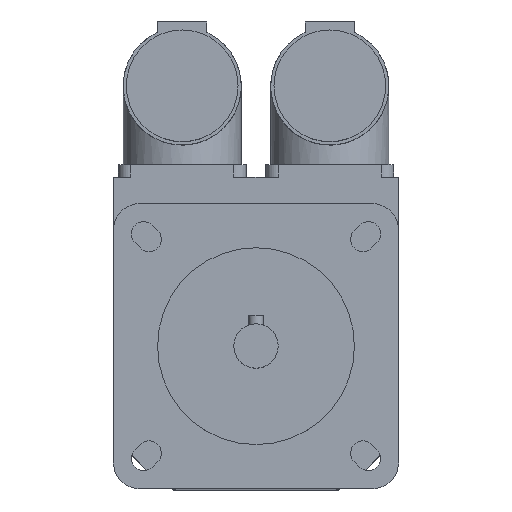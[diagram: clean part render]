
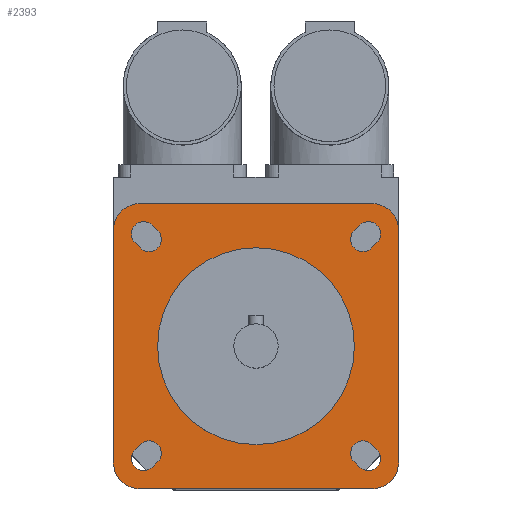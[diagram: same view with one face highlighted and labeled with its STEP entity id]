
A CAD part, top view. The second image highlights one B-rep face of the part: STEP entity #2393.
In plain terms, the highlighted planar face has unit normal (0, 0, 1).
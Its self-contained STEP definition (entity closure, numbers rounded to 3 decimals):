
#32=FACE_BOUND('',#432,.T.);
#33=FACE_BOUND('',#433,.T.);
#34=FACE_BOUND('',#434,.T.);
#35=FACE_BOUND('',#435,.T.);
#36=FACE_BOUND('',#436,.T.);
#51=CIRCLE('',#2486,20.);
#88=CIRCLE('',#2550,2.5);
#92=CIRCLE('',#2557,2.5);
#93=CIRCLE('',#2560,2.5);
#94=CIRCLE('',#2563,2.5);
#104=CIRCLE('',#2578,2.5);
#105=CIRCLE('',#2581,2.5);
#106=CIRCLE('',#2584,2.5);
#107=CIRCLE('',#2587,2.5);
#108=CIRCLE('',#2589,5.5);
#109=CIRCLE('',#2591,5.5);
#110=CIRCLE('',#2593,5.5);
#111=CIRCLE('',#2595,5.5);
#290=FACE_OUTER_BOUND('',#431,.T.);
#431=EDGE_LOOP('',(#1839,#1840,#1841,#1842,#1843,#1844,#1845,#1846));
#432=EDGE_LOOP('',(#1847));
#433=EDGE_LOOP('',(#1848,#1849,#1850,#1851));
#434=EDGE_LOOP('',(#1852,#1853,#1854,#1855));
#435=EDGE_LOOP('',(#1856,#1857,#1858,#1859));
#436=EDGE_LOOP('',(#1860,#1861,#1862,#1863));
#578=LINE('',#3719,#799);
#586=LINE('',#3743,#807);
#590=LINE('',#3753,#811);
#594=LINE('',#3763,#815);
#610=LINE('',#3814,#831);
#612=LINE('',#3820,#833);
#614=LINE('',#3826,#835);
#616=LINE('',#3832,#837);
#625=LINE('',#3860,#846);
#626=LINE('',#3861,#847);
#627=LINE('',#3862,#848);
#628=LINE('',#3863,#849);
#799=VECTOR('',#2944,1.5);
#807=VECTOR('',#2966,1.5);
#811=VECTOR('',#2976,1.5);
#815=VECTOR('',#2986,1.5);
#831=VECTOR('',#3032,1.5);
#833=VECTOR('',#3040,1.5);
#835=VECTOR('',#3048,1.5);
#837=VECTOR('',#3056,1.5);
#846=VECTOR('',#3087,47.);
#847=VECTOR('',#3088,47.);
#848=VECTOR('',#3089,47.);
#849=VECTOR('',#3090,47.);
#974=VERTEX_POINT('',#3540);
#1039=VERTEX_POINT('',#3716);
#1040=VERTEX_POINT('',#3718);
#1041=VERTEX_POINT('',#3722);
#1048=VERTEX_POINT('',#3740);
#1049=VERTEX_POINT('',#3742);
#1050=VERTEX_POINT('',#3746);
#1051=VERTEX_POINT('',#3750);
#1052=VERTEX_POINT('',#3752);
#1053=VERTEX_POINT('',#3756);
#1054=VERTEX_POINT('',#3760);
#1055=VERTEX_POINT('',#3762);
#1056=VERTEX_POINT('',#3766);
#1075=VERTEX_POINT('',#3812);
#1076=VERTEX_POINT('',#3818);
#1077=VERTEX_POINT('',#3824);
#1078=VERTEX_POINT('',#3830);
#1079=VERTEX_POINT('',#3836);
#1080=VERTEX_POINT('',#3838);
#1081=VERTEX_POINT('',#3842);
#1082=VERTEX_POINT('',#3844);
#1083=VERTEX_POINT('',#3848);
#1084=VERTEX_POINT('',#3850);
#1085=VERTEX_POINT('',#3854);
#1086=VERTEX_POINT('',#3856);
#1215=EDGE_CURVE('',#974,#974,#51,.T.);
#1301=EDGE_CURVE('',#1040,#1039,#578,.T.);
#1304=EDGE_CURVE('',#1039,#1041,#88,.T.);
#1313=EDGE_CURVE('',#1049,#1048,#586,.T.);
#1316=EDGE_CURVE('',#1048,#1050,#92,.T.);
#1318=EDGE_CURVE('',#1052,#1051,#590,.T.);
#1321=EDGE_CURVE('',#1051,#1053,#93,.T.);
#1323=EDGE_CURVE('',#1055,#1054,#594,.T.);
#1326=EDGE_CURVE('',#1054,#1056,#94,.T.);
#1349=EDGE_CURVE('',#1053,#1075,#610,.T.);
#1350=EDGE_CURVE('',#1075,#1052,#104,.T.);
#1352=EDGE_CURVE('',#1050,#1076,#612,.T.);
#1353=EDGE_CURVE('',#1076,#1049,#105,.T.);
#1355=EDGE_CURVE('',#1056,#1077,#614,.T.);
#1356=EDGE_CURVE('',#1077,#1055,#106,.T.);
#1358=EDGE_CURVE('',#1041,#1078,#616,.T.);
#1359=EDGE_CURVE('',#1078,#1040,#107,.T.);
#1361=EDGE_CURVE('',#1080,#1079,#108,.T.);
#1364=EDGE_CURVE('',#1082,#1081,#109,.T.);
#1367=EDGE_CURVE('',#1084,#1083,#110,.T.);
#1370=EDGE_CURVE('',#1086,#1085,#111,.T.);
#1372=EDGE_CURVE('',#1079,#1086,#625,.T.);
#1373=EDGE_CURVE('',#1085,#1084,#626,.T.);
#1374=EDGE_CURVE('',#1083,#1082,#627,.T.);
#1375=EDGE_CURVE('',#1081,#1080,#628,.T.);
#1839=ORIENTED_EDGE('',*,*,#1372,.T.);
#1840=ORIENTED_EDGE('',*,*,#1370,.T.);
#1841=ORIENTED_EDGE('',*,*,#1373,.T.);
#1842=ORIENTED_EDGE('',*,*,#1367,.T.);
#1843=ORIENTED_EDGE('',*,*,#1374,.T.);
#1844=ORIENTED_EDGE('',*,*,#1364,.T.);
#1845=ORIENTED_EDGE('',*,*,#1375,.T.);
#1846=ORIENTED_EDGE('',*,*,#1361,.T.);
#1847=ORIENTED_EDGE('',*,*,#1215,.T.);
#1848=ORIENTED_EDGE('',*,*,#1349,.T.);
#1849=ORIENTED_EDGE('',*,*,#1350,.T.);
#1850=ORIENTED_EDGE('',*,*,#1318,.T.);
#1851=ORIENTED_EDGE('',*,*,#1321,.T.);
#1852=ORIENTED_EDGE('',*,*,#1352,.T.);
#1853=ORIENTED_EDGE('',*,*,#1353,.T.);
#1854=ORIENTED_EDGE('',*,*,#1313,.T.);
#1855=ORIENTED_EDGE('',*,*,#1316,.T.);
#1856=ORIENTED_EDGE('',*,*,#1355,.T.);
#1857=ORIENTED_EDGE('',*,*,#1356,.T.);
#1858=ORIENTED_EDGE('',*,*,#1323,.T.);
#1859=ORIENTED_EDGE('',*,*,#1326,.T.);
#1860=ORIENTED_EDGE('',*,*,#1358,.T.);
#1861=ORIENTED_EDGE('',*,*,#1359,.T.);
#1862=ORIENTED_EDGE('',*,*,#1301,.T.);
#1863=ORIENTED_EDGE('',*,*,#1304,.T.);
#2297=PLANE('',#2596);
#2393=ADVANCED_FACE('',(#290,#32,#33,#34,#35,#36),#2297,.T.);
#2486=AXIS2_PLACEMENT_3D('',#3541,#2769,#2770);
#2550=AXIS2_PLACEMENT_3D('',#3724,#2949,#2950);
#2557=AXIS2_PLACEMENT_3D('',#3748,#2971,#2972);
#2560=AXIS2_PLACEMENT_3D('',#3758,#2981,#2982);
#2563=AXIS2_PLACEMENT_3D('',#3768,#2991,#2992);
#2578=AXIS2_PLACEMENT_3D('',#3816,#3035,#3036);
#2581=AXIS2_PLACEMENT_3D('',#3822,#3043,#3044);
#2584=AXIS2_PLACEMENT_3D('',#3828,#3051,#3052);
#2587=AXIS2_PLACEMENT_3D('',#3834,#3059,#3060);
#2589=AXIS2_PLACEMENT_3D('',#3839,#3064,#3065);
#2591=AXIS2_PLACEMENT_3D('',#3845,#3070,#3071);
#2593=AXIS2_PLACEMENT_3D('',#3851,#3076,#3077);
#2595=AXIS2_PLACEMENT_3D('',#3857,#3082,#3083);
#2596=AXIS2_PLACEMENT_3D('',#3859,#3085,#3086);
#2769=DIRECTION('center_axis',(0.,0.,-1.));
#2770=DIRECTION('ref_axis',(-1.,0.,0.));
#2944=DIRECTION('',(-0.707,-0.707,0.));
#2949=DIRECTION('center_axis',(0.,0.,-1.));
#2950=DIRECTION('ref_axis',(0.707,-0.707,0.));
#2966=DIRECTION('',(-0.707,0.707,0.));
#2971=DIRECTION('center_axis',(0.,0.,-1.));
#2972=DIRECTION('ref_axis',(-0.707,-0.707,0.));
#2976=DIRECTION('',(-0.707,-0.707,0.));
#2981=DIRECTION('center_axis',(0.,0.,-1.));
#2982=DIRECTION('ref_axis',(0.707,-0.707,0.));
#2986=DIRECTION('',(-0.707,0.707,0.));
#2991=DIRECTION('center_axis',(0.,0.,-1.));
#2992=DIRECTION('ref_axis',(-0.707,-0.707,0.));
#3032=DIRECTION('',(0.707,0.707,0.));
#3035=DIRECTION('center_axis',(0.,0.,-1.));
#3036=DIRECTION('ref_axis',(-0.707,0.707,0.));
#3040=DIRECTION('',(0.707,-0.707,0.));
#3043=DIRECTION('center_axis',(0.,0.,-1.));
#3044=DIRECTION('ref_axis',(0.707,0.707,0.));
#3048=DIRECTION('',(0.707,-0.707,0.));
#3051=DIRECTION('center_axis',(0.,0.,-1.));
#3052=DIRECTION('ref_axis',(0.707,0.707,0.));
#3056=DIRECTION('',(0.707,0.707,0.));
#3059=DIRECTION('center_axis',(0.,0.,-1.));
#3060=DIRECTION('ref_axis',(-0.707,0.707,0.));
#3064=DIRECTION('center_axis',(0.,0.,1.));
#3065=DIRECTION('ref_axis',(1.,0.,0.));
#3070=DIRECTION('center_axis',(0.,0.,1.));
#3071=DIRECTION('ref_axis',(0.,-1.,0.));
#3076=DIRECTION('center_axis',(0.,0.,1.));
#3077=DIRECTION('ref_axis',(-1.,0.,0.));
#3082=DIRECTION('center_axis',(0.,0.,1.));
#3083=DIRECTION('ref_axis',(0.,1.,0.));
#3085=DIRECTION('center_axis',(0.,0.,1.));
#3086=DIRECTION('ref_axis',(1.,0.,0.));
#3087=DIRECTION('',(-1.,0.,0.));
#3088=DIRECTION('',(0.,-1.,0.));
#3089=DIRECTION('',(1.,0.,0.));
#3090=DIRECTION('',(0.,1.,0.));
#3540=CARTESIAN_POINT('',(20.,0.,92.5));
#3541=CARTESIAN_POINT('Origin',(0.,0.,92.5));
#3716=CARTESIAN_POINT('',(-21.036,-24.572,92.5));
#3718=CARTESIAN_POINT('',(-19.976,-23.511,92.5));
#3719=CARTESIAN_POINT('',(-9.634,-13.17,92.5));
#3722=CARTESIAN_POINT('',(-24.572,-21.036,92.5));
#3724=CARTESIAN_POINT('Origin',(-22.804,-22.804,92.5));
#3740=CARTESIAN_POINT('',(-24.572,21.036,92.5));
#3742=CARTESIAN_POINT('',(-23.511,19.976,92.5));
#3743=CARTESIAN_POINT('',(-13.17,9.634,92.5));
#3746=CARTESIAN_POINT('',(-21.036,24.572,92.5));
#3748=CARTESIAN_POINT('Origin',(-22.804,22.804,92.5));
#3750=CARTESIAN_POINT('',(23.511,19.976,92.5));
#3752=CARTESIAN_POINT('',(24.572,21.036,92.5));
#3753=CARTESIAN_POINT('',(12.64,9.104,92.5));
#3756=CARTESIAN_POINT('',(19.976,23.511,92.5));
#3758=CARTESIAN_POINT('Origin',(21.744,21.744,92.5));
#3760=CARTESIAN_POINT('',(19.976,-23.511,92.5));
#3762=CARTESIAN_POINT('',(21.036,-24.572,92.5));
#3763=CARTESIAN_POINT('',(9.104,-12.64,92.5));
#3766=CARTESIAN_POINT('',(23.511,-19.976,92.5));
#3768=CARTESIAN_POINT('Origin',(21.744,-21.744,92.5));
#3812=CARTESIAN_POINT('',(21.036,24.572,92.5));
#3814=CARTESIAN_POINT('',(9.634,13.17,92.5));
#3816=CARTESIAN_POINT('Origin',(22.804,22.804,92.5));
#3818=CARTESIAN_POINT('',(-19.976,23.511,92.5));
#3820=CARTESIAN_POINT('',(-9.104,12.64,92.5));
#3822=CARTESIAN_POINT('Origin',(-21.744,21.744,92.5));
#3824=CARTESIAN_POINT('',(24.572,-21.036,92.5));
#3826=CARTESIAN_POINT('',(13.17,-9.634,92.5));
#3828=CARTESIAN_POINT('Origin',(22.804,-22.804,92.5));
#3830=CARTESIAN_POINT('',(-23.511,-19.976,92.5));
#3832=CARTESIAN_POINT('',(-12.64,-9.104,92.5));
#3834=CARTESIAN_POINT('Origin',(-21.744,-21.744,92.5));
#3836=CARTESIAN_POINT('',(23.5,29.,92.5));
#3838=CARTESIAN_POINT('',(29.,23.5,92.5));
#3839=CARTESIAN_POINT('Origin',(23.5,23.5,92.5));
#3842=CARTESIAN_POINT('',(29.,-23.5,92.5));
#3844=CARTESIAN_POINT('',(23.5,-29.,92.5));
#3845=CARTESIAN_POINT('Origin',(23.5,-23.5,92.5));
#3848=CARTESIAN_POINT('',(-23.5,-29.,92.5));
#3850=CARTESIAN_POINT('',(-29.,-23.5,92.5));
#3851=CARTESIAN_POINT('Origin',(-23.5,-23.5,92.5));
#3854=CARTESIAN_POINT('',(-29.,23.5,92.5));
#3856=CARTESIAN_POINT('',(-23.5,29.,92.5));
#3857=CARTESIAN_POINT('Origin',(-23.5,23.5,92.5));
#3859=CARTESIAN_POINT('Origin',(0.,0.,
92.5));
#3860=CARTESIAN_POINT('',(23.5,29.,92.5));
#3861=CARTESIAN_POINT('',(-29.,23.5,92.5));
#3862=CARTESIAN_POINT('',(-23.5,-29.,92.5));
#3863=CARTESIAN_POINT('',(29.,-23.5,92.5));
